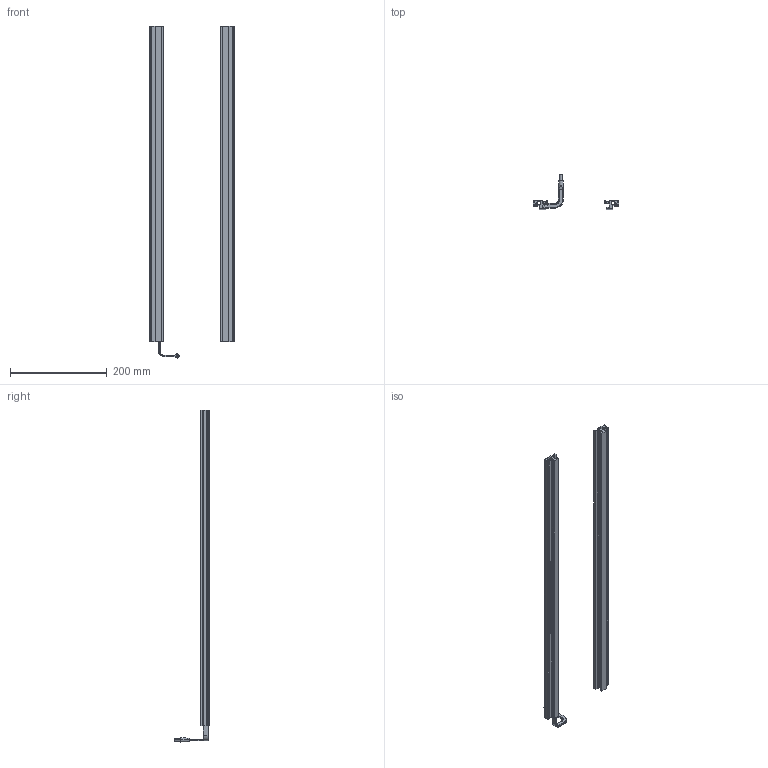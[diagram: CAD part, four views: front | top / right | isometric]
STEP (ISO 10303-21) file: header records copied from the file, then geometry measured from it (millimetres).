
FILE_DESCRIPTION (( 'STEP AP214' ), '1' );
FILE_NAME ('Traversenpaare inkl. Traversenkabel_653.step', '2010-10-21T05:39:33', ( 'grass' ), ( '' ), 'SwSTEP 2.0', 'SolidWorks 2010', '' );
FILE_SCHEMA (( 'AUTOMOTIVE_DESIGN' ));
Length unit declared in the file: millimetre
Products named in the file (1): Traversenpaare inkl. Traversenkabel_653
Bounding box: 176 x 72.5 x 686.75 mm (x, y, z)
Volume: 336412.6 mm3; surface area: 212915 mm2
Topology: 2 solids, 2 shells, 127 faces, 361 edges, 238 vertices
Faces by surface type: plane 107, cylinder 18, cone 2
Entity records: 4126 total; most frequent: CARTESIAN_POINT 733, ORIENTED_EDGE 722, DIRECTION 655, EDGE_CURVE 361, LINE 319, VECTOR 319, VERTEX_POINT 238, AXIS2_PLACEMENT_3D 168
